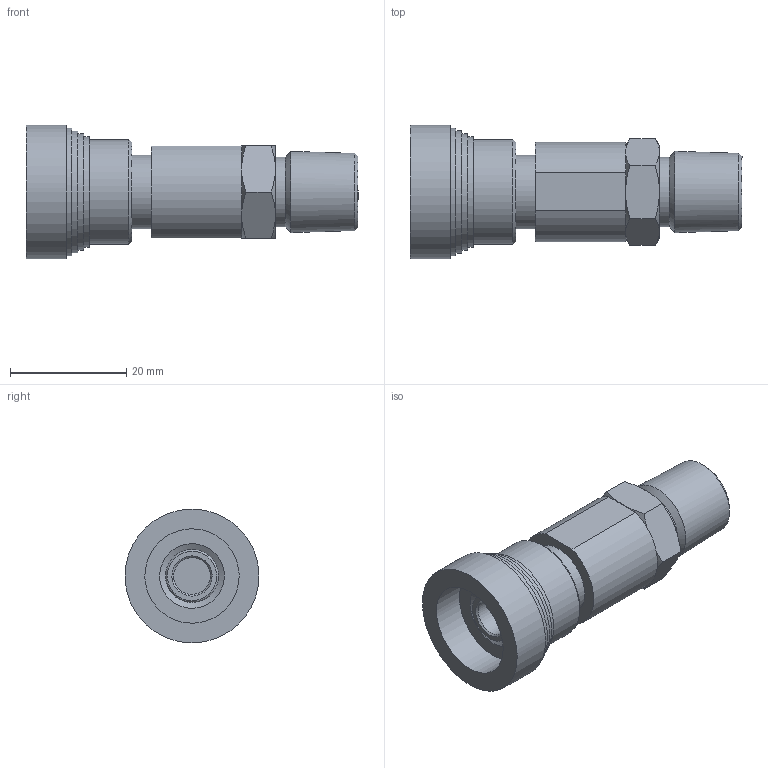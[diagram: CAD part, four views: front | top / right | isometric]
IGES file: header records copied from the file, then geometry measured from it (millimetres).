
Global section: file name: SQC1B-M4N; native system: Autodesk Inventor 2016; preprocessor: unknown; author: 이승민,,11,0; organization: 20170206.114154; date: 20170208.203358; units: millimetre
Bounding box: 57.07 x 23 x 22.96 mm (x, y, z)
Volume: 11358.3 mm3; surface area: 4959.6 mm2
Topology: 1 solids, 1 shells, 63 faces, 154 edges, 107 vertices
Faces by surface type: bspline 63
